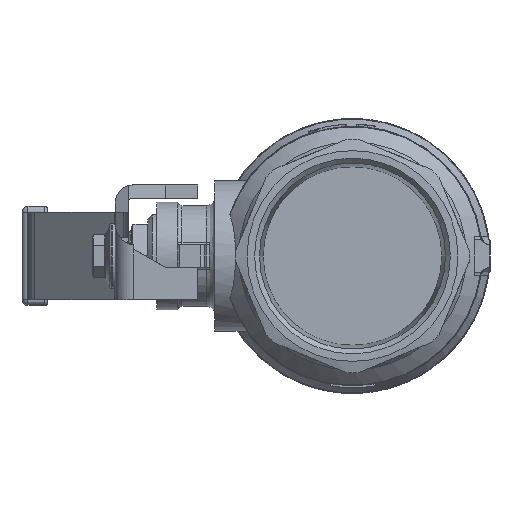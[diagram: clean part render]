
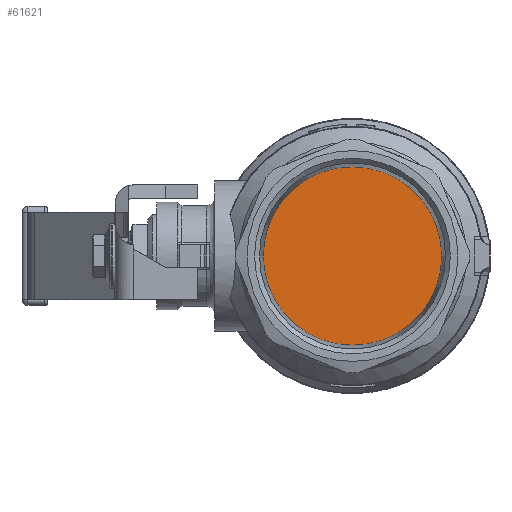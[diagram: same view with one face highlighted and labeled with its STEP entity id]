
A CAD part, left-side view. The second image highlights one B-rep face of the part: STEP entity #61621.
In plain terms, the highlighted planar face has unit normal (-1, 0, 0).
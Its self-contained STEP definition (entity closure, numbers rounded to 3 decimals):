
#61598=CARTESIAN_POINT('',(-54.85,-19.475,0.0));
#61599=VERTEX_POINT('',#61598);
#61600=CARTESIAN_POINT('',(-54.85,0.0,0.0));
#61601=DIRECTION('',(-1.0,0.0,0.0));
#61602=DIRECTION('',(0.0,-1.0,0.0));
#61603=AXIS2_PLACEMENT_3D('',#61600,#61601,#61602);
#61604=CIRCLE('',#61603,19.475);
#61605=EDGE_CURVE('',#61599,#61599,#61604,.T.);
#61613=CARTESIAN_POINT('',(-54.85,-9.737,0.0));
#61614=DIRECTION('',(-1.0,0.0,0.0));
#61615=DIRECTION('',(0.0,0.0,1.0));
#61616=AXIS2_PLACEMENT_3D('',#61613,#61614,#61615);
#61617=PLANE('',#61616);
#61618=ORIENTED_EDGE('',*,*,#61605,.T.);
#61619=EDGE_LOOP('',(#61618));
#61620=FACE_OUTER_BOUND('',#61619,.T.);
#61621=ADVANCED_FACE('',(#61620),#61617,.T.);
